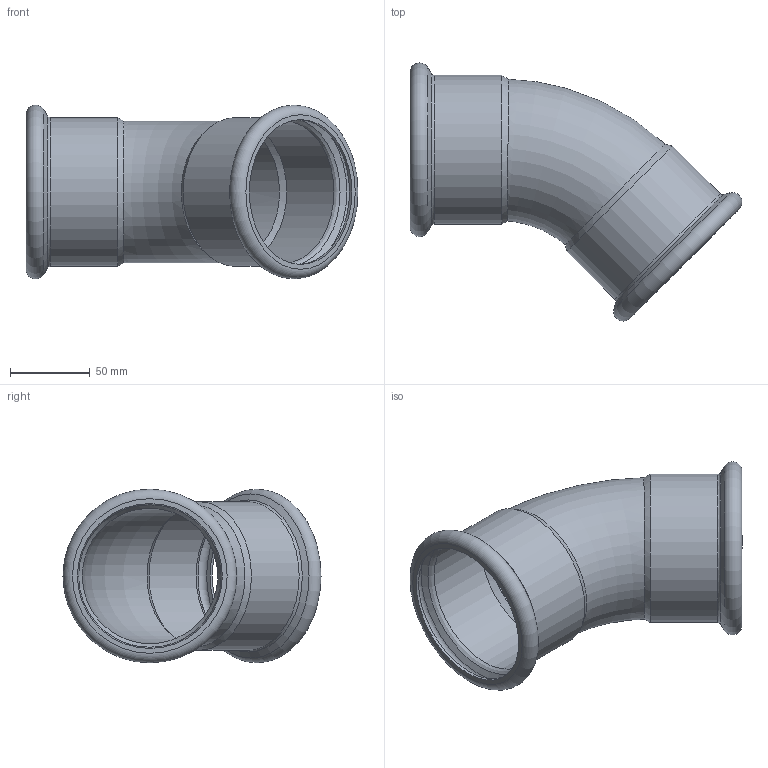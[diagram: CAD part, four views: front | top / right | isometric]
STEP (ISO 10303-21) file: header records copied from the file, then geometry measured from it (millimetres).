
FILE_DESCRIPTION((''),'2;1');
FILE_NAME('G:\Technics\CAD\Bauteile\089\6904189(1).stp','2008-03-13T07:37:53',('herberg'),(''),'Autodesk Inventor 2008','Autodesk Inventor 2008','');
FILE_SCHEMA(('AUTOMOTIVE_DESIGN { 1 0 10303 214 1 1 1 1 }'));
Length unit declared in the file: millimetre
Products named in the file (1): 6904189(1)
Bounding box: 208.49 x 162.04 x 109.1 mm (x, y, z)
Volume: 124326 mm3; surface area: 125468.2 mm2
Topology: 1 solids, 1 shells, 28 faces, 54 edges, 30 vertices
Faces by surface type: cone 8, cylinder 6, torus 6, bspline 4, plane 4
Full cylindrical faces by diameter (mm): 89.5 x2, 91 x2, 93.5 x2
Entity records: 956 total; most frequent: CARTESIAN_POINT 475, DIRECTION 98, ORIENTED_EDGE 56, EDGE_LOOP 56, AXIS2_PLACEMENT_3D 49, VERTEX_POINT 28, EDGE_CURVE 28, FACE_OUTER_BOUND 28
